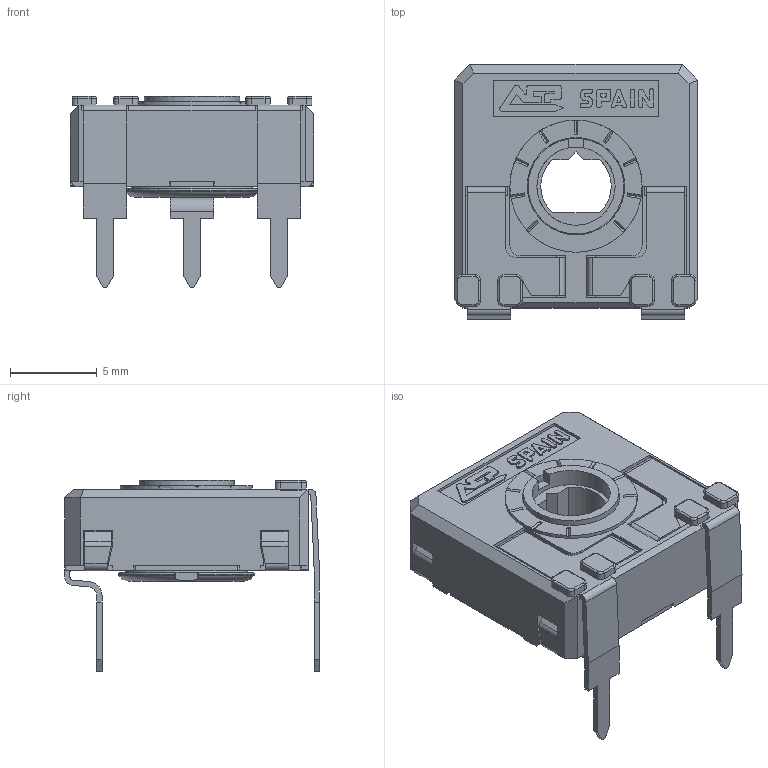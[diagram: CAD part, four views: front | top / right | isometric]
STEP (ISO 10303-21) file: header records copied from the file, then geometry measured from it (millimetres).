
FILE_DESCRIPTION(/* description */ (''),/* implementation_level */ '2;1');
FILE_NAME(/* name */ '\\SERVERACP\intercambio\Ignacio Santa Cecilia\Nueva WEB 2025\CA14 - CE14\CA14KV12,5.stp',/* time_stamp */ '2025-06-06T10:44:30+02:00',/* author */ ('CEM'),/* organization */ (''),/* preprocessor_version */ 'ST-DEVELOPER v17',/* originating_system */ 'Autodesk Inventor 2018',/* authorisation */ '');
FILE_SCHEMA (('AUTOMOTIVE_DESIGN { 1 0 10303 214 3 1 1 }'));
Length unit declared in the file: millimetre
Products named in the file (1): CARCASA CA14 PGA
Bounding box: 14 x 14.65 x 11 mm (x, y, z)
Volume: 536.1 mm3; surface area: 1494.9 mm2
Topology: 1 solids, 1 shells, 685 faces, 1941 edges, 1252 vertices
Faces by surface type: plane 505, cylinder 143, torus 23, bspline 8, cone 6
Full cylindrical faces by diameter (mm): 4.5 x1, 5.5 x1, 5.6 x1, 5.752 x1, 6.8 x1, 7.6 x1
Entity records: 22438 total; most frequent: CARTESIAN_POINT 4176, ORIENTED_EDGE 3882, DIRECTION 3624, EDGE_CURVE 1941, LINE 1524, VECTOR 1524, VERTEX_POINT 1252, AXIS2_PLACEMENT_3D 1050
